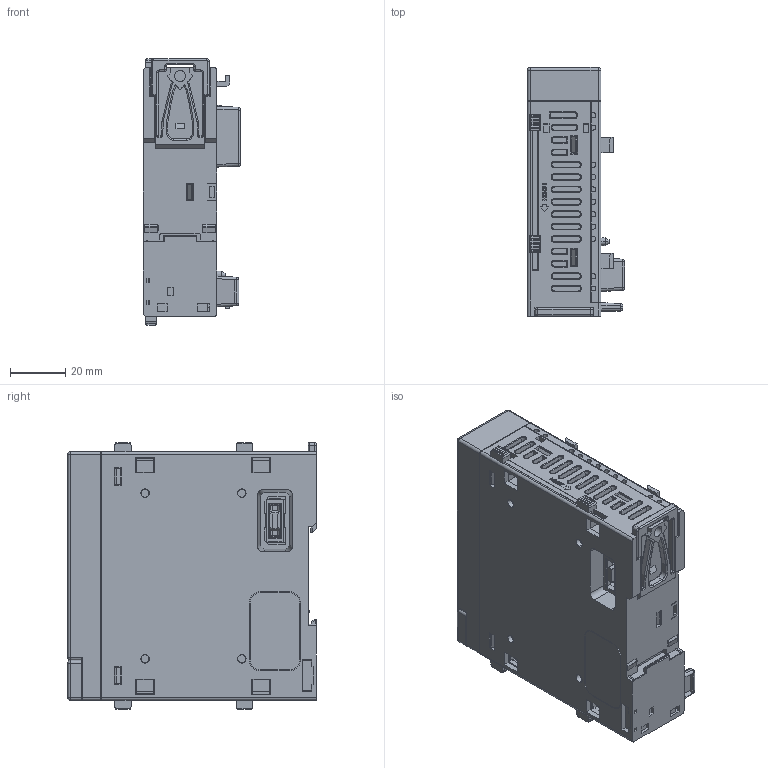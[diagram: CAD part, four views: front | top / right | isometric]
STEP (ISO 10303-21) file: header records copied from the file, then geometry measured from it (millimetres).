
FILE_DESCRIPTION((''),'2;1');
FILE_NAME('XCPU-R40P-DOWN-COVER','2023-12-25T22:50:04',('Jacky Chang'),(''),'CREO PARAMETRIC BY PTC INC, 2021284','CREO PARAMETRIC BY PTC INC, 2021284','');
FILE_SCHEMA(('CONFIG_CONTROL_DESIGN','SHAPE_APPEARANCE_LAYERS_GROUPS'));
Products named in the file (1): XCPU-R40P-DOWN-COVER
Bounding box: 35.2 x 90 x 96.6 mm (x, y, z)
Volume: 202276 mm3; surface area: 39393.9 mm2
Topology: 1 solids, 2 shells, 2833 faces, 7700 edges, 4909 vertices
Faces by surface type: plane 1904, cylinder 617, torus 92, cone 90, extrusion 60, sphere 42, bspline 28
Entity records: 131745 total; most frequent: CARTESIAN_POINT 17696, ORIENTED_EDGE 15376, DIRECTION 14149, PRESENTATION_STYLE_ASSIGNMENT 9299, STYLED_ITEM 7689, CURVE_STYLE 7688, EDGE_CURVE 7688, VECTOR 6097
